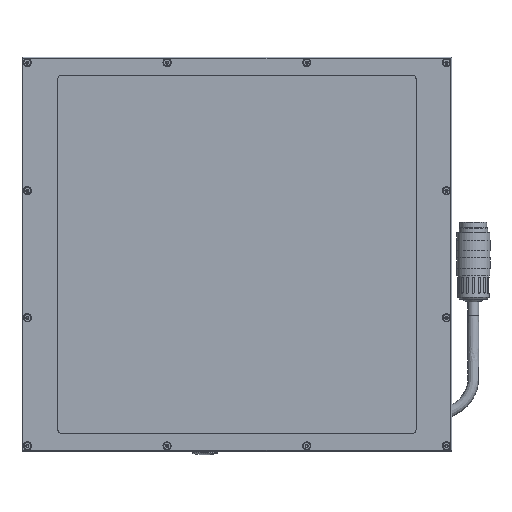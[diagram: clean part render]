
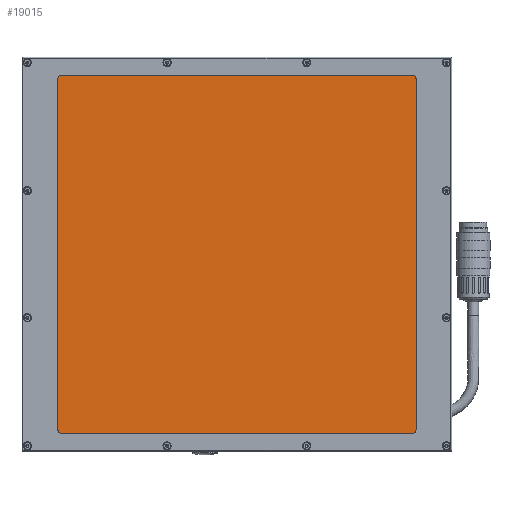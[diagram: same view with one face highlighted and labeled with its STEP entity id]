
A CAD part, top view. The second image highlights one B-rep face of the part: STEP entity #19015.
In plain terms, the highlighted planar face has unit normal (0, 0, 1).
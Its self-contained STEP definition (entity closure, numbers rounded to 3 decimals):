
#1349=CIRCLE('',#28636,2.);
#1350=CIRCLE('',#28637,2.);
#1351=CIRCLE('',#28638,2.);
#1352=CIRCLE('',#28639,2.);
#2153=ORIENTED_EDGE('',*,*,#7671,.T.);
#2154=ORIENTED_EDGE('',*,*,#7681,.T.);
#2155=ORIENTED_EDGE('',*,*,#7673,.T.);
#2156=ORIENTED_EDGE('',*,*,#7682,.T.);
#2157=ORIENTED_EDGE('',*,*,#7677,.T.);
#2158=ORIENTED_EDGE('',*,*,#7683,.T.);
#2159=ORIENTED_EDGE('',*,*,#7665,.T.);
#2160=ORIENTED_EDGE('',*,*,#7684,.T.);
#7665=EDGE_CURVE('',#10429,#10430,#12382,.T.);
#7671=EDGE_CURVE('',#10436,#10435,#12388,.T.);
#7673=EDGE_CURVE('',#10437,#10438,#12390,.T.);
#7677=EDGE_CURVE('',#10441,#10442,#12394,.T.);
#7681=EDGE_CURVE('',#10435,#10437,#1349,.T.);
#7682=EDGE_CURVE('',#10438,#10441,#1350,.T.);
#7683=EDGE_CURVE('',#10442,#10429,#1351,.T.);
#7684=EDGE_CURVE('',#10430,#10436,#1352,.T.);
#10429=VERTEX_POINT('',#36046);
#10430=VERTEX_POINT('',#36047);
#10435=VERTEX_POINT('',#36058);
#10436=VERTEX_POINT('',#36060);
#10437=VERTEX_POINT('',#36064);
#10438=VERTEX_POINT('',#36065);
#10441=VERTEX_POINT('',#36073);
#10442=VERTEX_POINT('',#36074);
#12382=LINE('',#36045,#13831);
#12388=LINE('',#36059,#13837);
#12390=LINE('',#36063,#13839);
#12394=LINE('',#36072,#13843);
#13831=VECTOR('',#30622,1000.);
#13837=VECTOR('',#30630,1000.);
#13839=VECTOR('',#30634,1000.);
#13843=VECTOR('',#30640,1000.);
#15284=EDGE_LOOP('',(#2153,#2154,#2155,#2156,#2157,#2158,#2159,#2160));
#16846=FACE_BOUND('',#15284,.T.);
#18459=PLANE('',#28635);
#19015=ADVANCED_FACE('',(#16846),#18459,.T.);
#28635=AXIS2_PLACEMENT_3D('',#36080,#30644,#30645);
#28636=AXIS2_PLACEMENT_3D('',#36081,#30646,#30647);
#28637=AXIS2_PLACEMENT_3D('',#36082,#30648,#30649);
#28638=AXIS2_PLACEMENT_3D('',#36083,#30650,#30651);
#28639=AXIS2_PLACEMENT_3D('',#36084,#30652,#30653);
#30622=DIRECTION('',(0.,-1.,0.));
#30630=DIRECTION('',(1.,0.,0.));
#30634=DIRECTION('',(0.,1.,0.));
#30640=DIRECTION('',(-1.,0.,0.));
#30644=DIRECTION('',(0.,0.,1.));
#30645=DIRECTION('',(1.,0.,0.));
#30646=DIRECTION('',(0.,0.,1.));
#30647=DIRECTION('',(1.,0.,0.));
#30648=DIRECTION('',(0.,0.,1.));
#30649=DIRECTION('',(1.,0.,0.));
#30650=DIRECTION('',(0.,0.,1.));
#30651=DIRECTION('',(1.,0.,0.));
#30652=DIRECTION('',(0.,0.,1.));
#30653=DIRECTION('',(1.,0.,0.));
#36045=CARTESIAN_POINT('',(-103.8,103.8,11.05));
#36046=CARTESIAN_POINT('',(-103.8,101.8,11.05));
#36047=CARTESIAN_POINT('',(-103.8,-101.8,11.05));
#36058=CARTESIAN_POINT('',(101.8,-103.8,11.05));
#36059=CARTESIAN_POINT('',(-103.8,-103.8,11.05));
#36060=CARTESIAN_POINT('',(-101.8,-103.8,11.05));
#36063=CARTESIAN_POINT('',(103.8,-103.8,11.05));
#36064=CARTESIAN_POINT('',(103.8,-101.8,11.05));
#36065=CARTESIAN_POINT('',(103.8,101.8,11.05));
#36072=CARTESIAN_POINT('',(103.8,103.8,11.05));
#36073=CARTESIAN_POINT('',(101.8,103.8,11.05));
#36074=CARTESIAN_POINT('',(-101.8,103.8,11.05));
#36080=CARTESIAN_POINT('',(0.,0.,
11.05));
#36081=CARTESIAN_POINT('',(101.8,-101.8,11.05));
#36082=CARTESIAN_POINT('',(101.8,101.8,11.05));
#36083=CARTESIAN_POINT('',(-101.8,101.8,11.05));
#36084=CARTESIAN_POINT('',(-101.8,-101.8,11.05));
